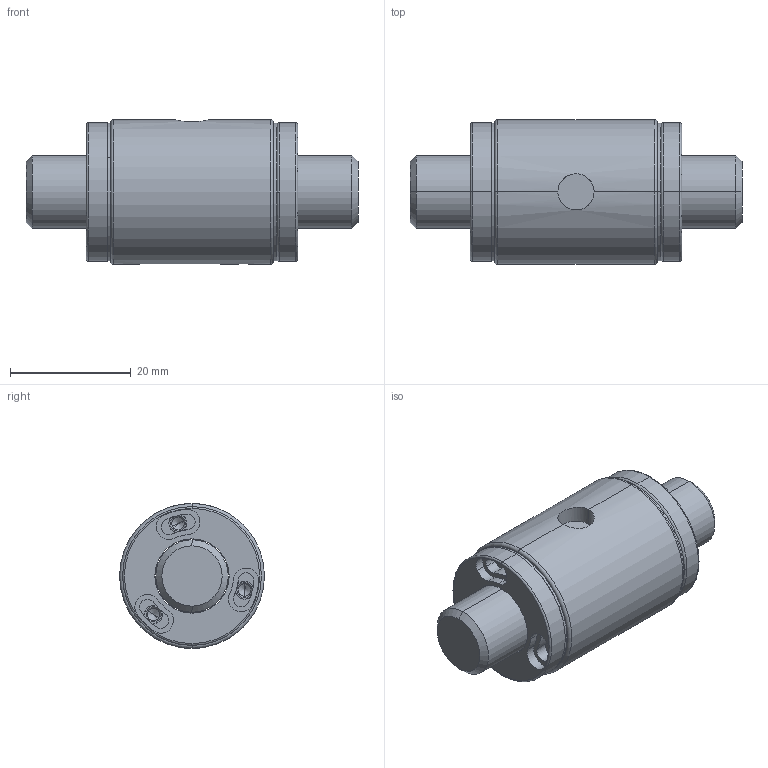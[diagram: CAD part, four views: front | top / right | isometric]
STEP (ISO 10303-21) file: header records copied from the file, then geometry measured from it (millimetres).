
FILE_DESCRIPTION (( 'STEP AP203' ), '1' );
FILE_NAME ('XCHR01210A1-C.STEP', '2020-06-17T08:54:26', ( '' ), ( '' ), 'SwSTEP 2.0', 'SolidWorks 2013', '' );
FILE_SCHEMA (( 'CONFIG_CONTROL_DESIGN' ));
Length unit declared in the file: millimetre
Products named in the file (1): XCHR01210A1-C
Bounding box: 55 x 24 x 24 mm (x, y, z)
Volume: 16438.9 mm3; surface area: 7625.7 mm2
Topology: 2 solids, 2 shells, 191 faces, 456 edges, 281 vertices
Faces by surface type: cylinder 107, plane 52, cone 22, torus 10
Entity records: 5834 total; most frequent: CARTESIAN_POINT 1135, DIRECTION 1113, ORIENTED_EDGE 888, AXIS2_PLACEMENT_3D 487, EDGE_CURVE 444, CIRCLE 295, VERTEX_POINT 281, EDGE_LOOP 219
